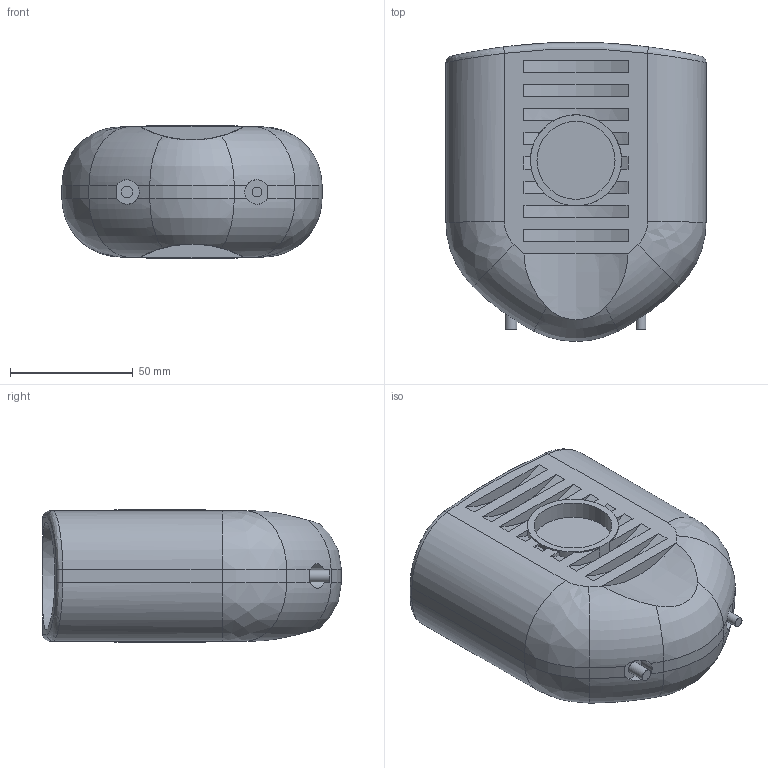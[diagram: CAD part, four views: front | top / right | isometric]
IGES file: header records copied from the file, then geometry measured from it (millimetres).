
Global section: file name: 490904040.ipt; native system: Autodesk Inventor 2015; preprocessor: unknown; author: Кирилл,,11,0; organization: 20170701.181418; date: 20171106.093711; units: millimetre
Bounding box: 106 x 121.86 x 54.06 mm (x, y, z)
Volume: 305092.8 mm3; surface area: 61688.4 mm2
Topology: 1 solids, 1 shells, 133 faces, 327 edges, 212 vertices
Faces by surface type: plane 66, revolution 45, cylinder 18, bspline 4
Full cylindrical faces by diameter (mm): 4 x1, 4.8 x1, 37.1 x2
